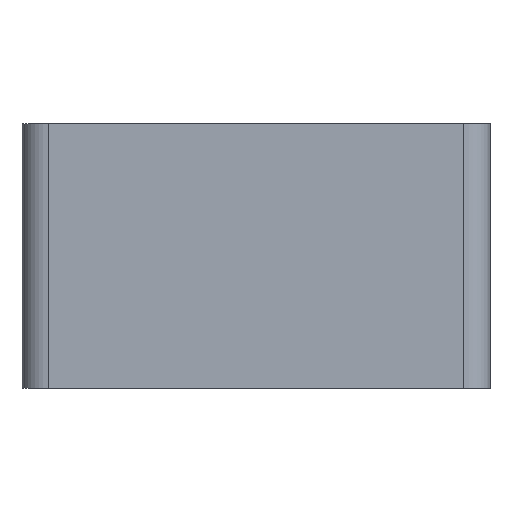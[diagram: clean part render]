
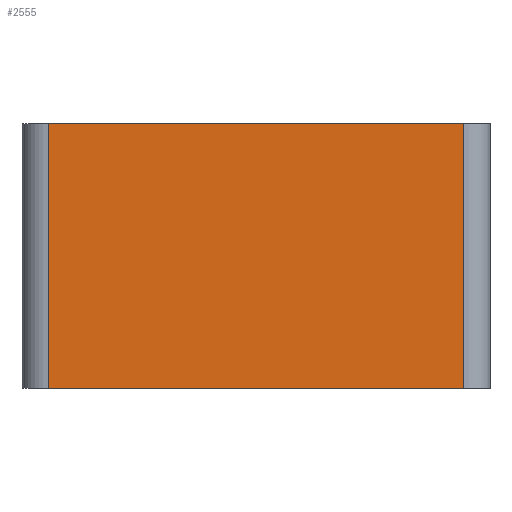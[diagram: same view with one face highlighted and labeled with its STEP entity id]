
A CAD part, left-side view. The second image highlights one B-rep face of the part: STEP entity #2555.
In plain terms, the highlighted planar face has unit normal (-1, 0, 0).
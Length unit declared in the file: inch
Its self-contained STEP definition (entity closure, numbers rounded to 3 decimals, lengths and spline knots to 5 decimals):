
#2497=CARTESIAN_POINT('',(-1.77165,0.09843,1.0));
#2498=VERTEX_POINT('',#2497);
#2506=CARTESIAN_POINT('',(-1.77165,0.09843,0.0));
#2507=VERTEX_POINT('',#2506);
#2508=CARTESIAN_POINT('',(-1.77165,0.09843,0.0));
#2509=DIRECTION('',(0.0,0.0,1.0));
#2510=VECTOR('',#2509,1.0);
#2511=LINE('',#2508,#2510);
#2512=EDGE_CURVE('',#2507,#2498,#2511,.T.);
#2525=CARTESIAN_POINT('',(-1.77165,0.09843,0.0));
#2526=DIRECTION('',(-1.0,0.0,0.0));
#2527=DIRECTION('',(0.0,0.0,1.0));
#2528=AXIS2_PLACEMENT_3D('',#2525,#2526,#2527);
#2529=PLANE('',#2528);
#2530=CARTESIAN_POINT('',(-1.77165,1.67323,1.0));
#2531=VERTEX_POINT('',#2530);
#2532=CARTESIAN_POINT('',(-1.77165,0.09843,1.0));
#2533=DIRECTION('',(0.0,1.0,0.0));
#2534=VECTOR('',#2533,1.5748);
#2535=LINE('',#2532,#2534);
#2536=EDGE_CURVE('',#2498,#2531,#2535,.T.);
#2537=ORIENTED_EDGE('',*,*,#2536,.T.);
#2538=CARTESIAN_POINT('',(-1.77165,1.67323,0.0));
#2539=VERTEX_POINT('',#2538);
#2540=CARTESIAN_POINT('',(-1.77165,1.67323,0.0));
#2541=DIRECTION('',(0.0,0.0,1.0));
#2542=VECTOR('',#2541,1.0);
#2543=LINE('',#2540,#2542);
#2544=EDGE_CURVE('',#2539,#2531,#2543,.T.);
#2545=ORIENTED_EDGE('',*,*,#2544,.F.);
#2546=CARTESIAN_POINT('',(-1.77165,1.67323,0.0));
#2547=DIRECTION('',(0.0,-1.0,0.0));
#2548=VECTOR('',#2547,1.5748);
#2549=LINE('',#2546,#2548);
#2550=EDGE_CURVE('',#2539,#2507,#2549,.T.);
#2551=ORIENTED_EDGE('',*,*,#2550,.T.);
#2552=ORIENTED_EDGE('',*,*,#2512,.T.);
#2553=EDGE_LOOP('',(#2537,#2545,#2551,#2552));
#2554=FACE_OUTER_BOUND('',#2553,.T.);
#2555=ADVANCED_FACE('',(#2554),#2529,.T.);
